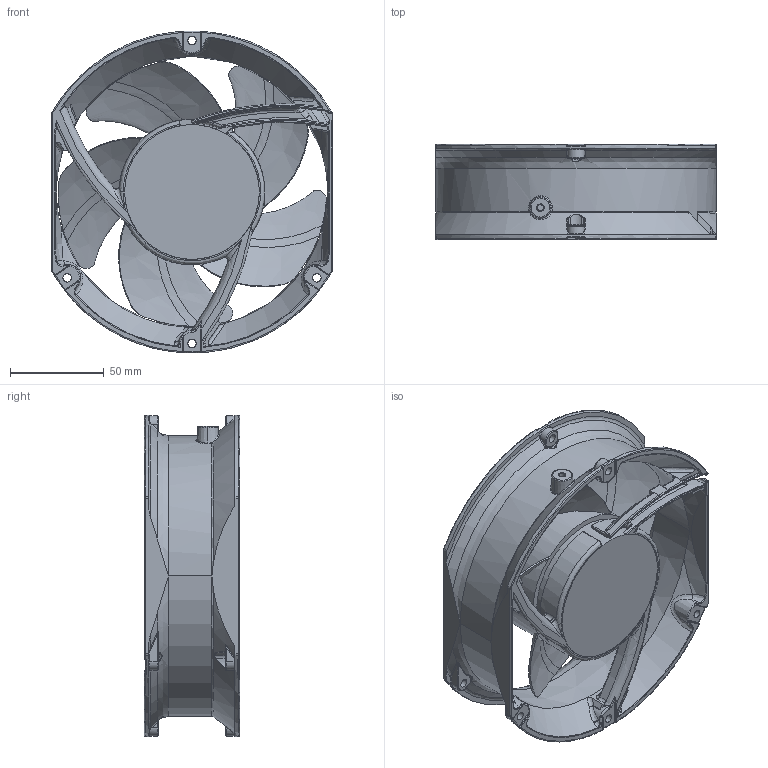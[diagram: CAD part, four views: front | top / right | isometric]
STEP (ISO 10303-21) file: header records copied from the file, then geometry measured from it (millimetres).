
FILE_DESCRIPTION (( 'STEP AP203' ), '1' );
FILE_NAME ('17215051SG_RIBLESS.STEP', '2017-03-31T04:41:50', ( '' ), ( '' ), 'SwSTEP 2.0', 'SolidWorks 2017', '' );
FILE_SCHEMA (( 'CONFIG_CONTROL_DESIGN' ));
Length unit declared in the file: millimetre
Products named in the file (1): 17215051SG_RIBLESS
Bounding box: 150.01 x 51.06 x 171.99 mm (x, y, z)
Volume: 333670.2 mm3; surface area: 113000.7 mm2
Topology: 1 solids, 1 shells, 956 faces, 2414 edges, 1426 vertices
Faces by surface type: bspline 593, cylinder 211, plane 110, cone 40, torus 2
Entity records: 60901 total; most frequent: CARTESIAN_POINT 43761, ORIENTED_EDGE 4768, EDGE_CURVE 2384, DIRECTION 1883, B_SPLINE_CURVE_WITH_KNOTS 1455, VERTEX_POINT 1426, EDGE_LOOP 974, ADVANCED_FACE 956
